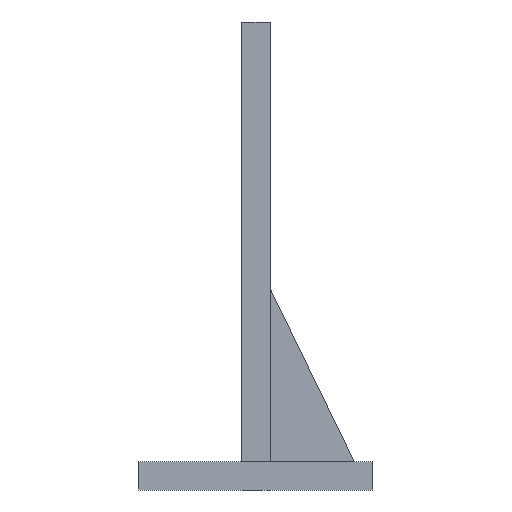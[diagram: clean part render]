
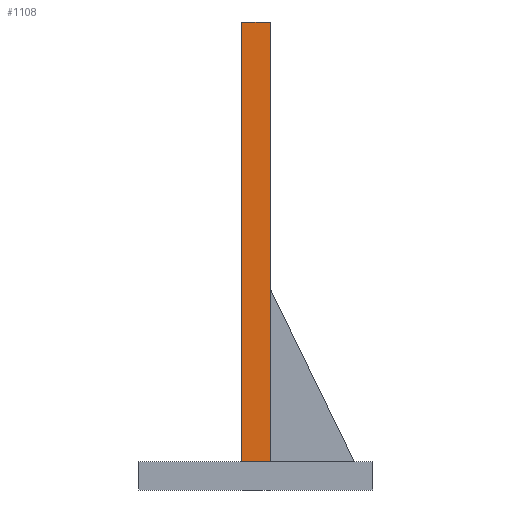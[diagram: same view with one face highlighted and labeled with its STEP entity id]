
A CAD part, front view. The second image highlights one B-rep face of the part: STEP entity #1108.
In plain terms, the highlighted planar face has unit normal (0, -1, 0).
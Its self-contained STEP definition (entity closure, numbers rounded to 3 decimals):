
#126 = PLANE('',#127);
#127 = AXIS2_PLACEMENT_3D('',#128,#129,#130);
#128 = CARTESIAN_POINT('',(-25.,-42.,6.));
#129 = DIRECTION('',(0.,0.,1.));
#130 = DIRECTION('',(1.,0.,0.));
#336 = VERTEX_POINT('',#337);
#337 = CARTESIAN_POINT('',(-3.,-25.,6.));
#353 = PLANE('',#354);
#354 = AXIS2_PLACEMENT_3D('',#355,#356,#357);
#355 = CARTESIAN_POINT('',(-3.,-25.,6.));
#356 = DIRECTION('',(1.,0.,0.));
#357 = DIRECTION('',(0.,0.,1.));
#409 = PLANE('',#410);
#410 = AXIS2_PLACEMENT_3D('',#411,#412,#413);
#411 = CARTESIAN_POINT('',(3.,-25.,6.));
#412 = DIRECTION('',(1.,0.,0.));
#413 = DIRECTION('',(0.,0.,1.));
#613 = VERTEX_POINT('',#614);
#614 = CARTESIAN_POINT('',(3.,-25.,6.));
#635 = EDGE_CURVE('',#336,#613,#636,.T.);
#636 = SURFACE_CURVE('',#637,(#641,#648),.PCURVE_S1.);
#637 = LINE('',#638,#639);
#638 = CARTESIAN_POINT('',(-3.,-25.,6.));
#639 = VECTOR('',#640,1.);
#640 = DIRECTION('',(1.,0.,0.));
#641 = PCURVE('',#126,#642);
#642 = DEFINITIONAL_REPRESENTATION('',(#643),#647);
#643 = LINE('',#644,#645);
#644 = CARTESIAN_POINT('',(22.,17.));
#645 = VECTOR('',#646,1.);
#646 = DIRECTION('',(1.,0.));
#647 = ( GEOMETRIC_REPRESENTATION_CONTEXT(2) 
PARAMETRIC_REPRESENTATION_CONTEXT() REPRESENTATION_CONTEXT('2D SPACE',''
  ) );
#648 = PCURVE('',#649,#654);
#649 = PLANE('',#650);
#650 = AXIS2_PLACEMENT_3D('',#651,#652,#653);
#651 = CARTESIAN_POINT('',(-3.,-25.,6.));
#652 = DIRECTION('',(0.,1.,0.));
#653 = DIRECTION('',(0.,0.,1.));
#654 = DEFINITIONAL_REPRESENTATION('',(#655),#659);
#655 = LINE('',#656,#657);
#656 = CARTESIAN_POINT('',(0.,0.));
#657 = VECTOR('',#658,1.);
#658 = DIRECTION('',(0.,1.));
#659 = ( GEOMETRIC_REPRESENTATION_CONTEXT(2) 
PARAMETRIC_REPRESENTATION_CONTEXT() REPRESENTATION_CONTEXT('2D SPACE',''
  ) );
#861 = EDGE_CURVE('',#336,#862,#864,.T.);
#862 = VERTEX_POINT('',#863);
#863 = CARTESIAN_POINT('',(-3.,-25.,100.));
#864 = SURFACE_CURVE('',#865,(#869,#876),.PCURVE_S1.);
#865 = LINE('',#866,#867);
#866 = CARTESIAN_POINT('',(-3.,-25.,6.));
#867 = VECTOR('',#868,1.);
#868 = DIRECTION('',(0.,0.,1.));
#869 = PCURVE('',#353,#870);
#870 = DEFINITIONAL_REPRESENTATION('',(#871),#875);
#871 = LINE('',#872,#873);
#872 = CARTESIAN_POINT('',(0.,0.));
#873 = VECTOR('',#874,1.);
#874 = DIRECTION('',(1.,0.));
#875 = ( GEOMETRIC_REPRESENTATION_CONTEXT(2) 
PARAMETRIC_REPRESENTATION_CONTEXT() REPRESENTATION_CONTEXT('2D SPACE',''
  ) );
#876 = PCURVE('',#649,#877);
#877 = DEFINITIONAL_REPRESENTATION('',(#878),#882);
#878 = LINE('',#879,#880);
#879 = CARTESIAN_POINT('',(0.,0.));
#880 = VECTOR('',#881,1.);
#881 = DIRECTION('',(1.,0.));
#882 = ( GEOMETRIC_REPRESENTATION_CONTEXT(2) 
PARAMETRIC_REPRESENTATION_CONTEXT() REPRESENTATION_CONTEXT('2D SPACE',''
  ) );
#922 = PLANE('',#923);
#923 = AXIS2_PLACEMENT_3D('',#924,#925,#926);
#924 = CARTESIAN_POINT('',(-3.,-25.,100.));
#925 = DIRECTION('',(0.,0.,1.));
#926 = DIRECTION('',(1.,0.,0.));
#1108 = ADVANCED_FACE('',(#1109),#649,.F.);
#1109 = FACE_BOUND('',#1110,.F.);
#1110 = EDGE_LOOP('',(#1111,#1112,#1113,#1136));
#1111 = ORIENTED_EDGE('',*,*,#635,.F.);
#1112 = ORIENTED_EDGE('',*,*,#861,.T.);
#1113 = ORIENTED_EDGE('',*,*,#1114,.T.);
#1114 = EDGE_CURVE('',#862,#1115,#1117,.T.);
#1115 = VERTEX_POINT('',#1116);
#1116 = CARTESIAN_POINT('',(3.,-25.,100.));
#1117 = SURFACE_CURVE('',#1118,(#1122,#1129),.PCURVE_S1.);
#1118 = LINE('',#1119,#1120);
#1119 = CARTESIAN_POINT('',(-3.,-25.,100.));
#1120 = VECTOR('',#1121,1.);
#1121 = DIRECTION('',(1.,0.,0.));
#1122 = PCURVE('',#649,#1123);
#1123 = DEFINITIONAL_REPRESENTATION('',(#1124),#1128);
#1124 = LINE('',#1125,#1126);
#1125 = CARTESIAN_POINT('',(94.,0.));
#1126 = VECTOR('',#1127,1.);
#1127 = DIRECTION('',(0.,1.));
#1128 = ( GEOMETRIC_REPRESENTATION_CONTEXT(2) 
PARAMETRIC_REPRESENTATION_CONTEXT() REPRESENTATION_CONTEXT('2D SPACE',''
  ) );
#1129 = PCURVE('',#922,#1130);
#1130 = DEFINITIONAL_REPRESENTATION('',(#1131),#1135);
#1131 = LINE('',#1132,#1133);
#1132 = CARTESIAN_POINT('',(0.,0.));
#1133 = VECTOR('',#1134,1.);
#1134 = DIRECTION('',(1.,0.));
#1135 = ( GEOMETRIC_REPRESENTATION_CONTEXT(2) 
PARAMETRIC_REPRESENTATION_CONTEXT() REPRESENTATION_CONTEXT('2D SPACE',''
  ) );
#1136 = ORIENTED_EDGE('',*,*,#1137,.F.);
#1137 = EDGE_CURVE('',#613,#1115,#1138,.T.);
#1138 = SURFACE_CURVE('',#1139,(#1143,#1150),.PCURVE_S1.);
#1139 = LINE('',#1140,#1141);
#1140 = CARTESIAN_POINT('',(3.,-25.,6.));
#1141 = VECTOR('',#1142,1.);
#1142 = DIRECTION('',(0.,0.,1.));
#1143 = PCURVE('',#649,#1144);
#1144 = DEFINITIONAL_REPRESENTATION('',(#1145),#1149);
#1145 = LINE('',#1146,#1147);
#1146 = CARTESIAN_POINT('',(0.,6.));
#1147 = VECTOR('',#1148,1.);
#1148 = DIRECTION('',(1.,0.));
#1149 = ( GEOMETRIC_REPRESENTATION_CONTEXT(2) 
PARAMETRIC_REPRESENTATION_CONTEXT() REPRESENTATION_CONTEXT('2D SPACE',''
  ) );
#1150 = PCURVE('',#409,#1151);
#1151 = DEFINITIONAL_REPRESENTATION('',(#1152),#1156);
#1152 = LINE('',#1153,#1154);
#1153 = CARTESIAN_POINT('',(0.,0.));
#1154 = VECTOR('',#1155,1.);
#1155 = DIRECTION('',(1.,0.));
#1156 = ( GEOMETRIC_REPRESENTATION_CONTEXT(2) 
PARAMETRIC_REPRESENTATION_CONTEXT() REPRESENTATION_CONTEXT('2D SPACE',''
  ) );
